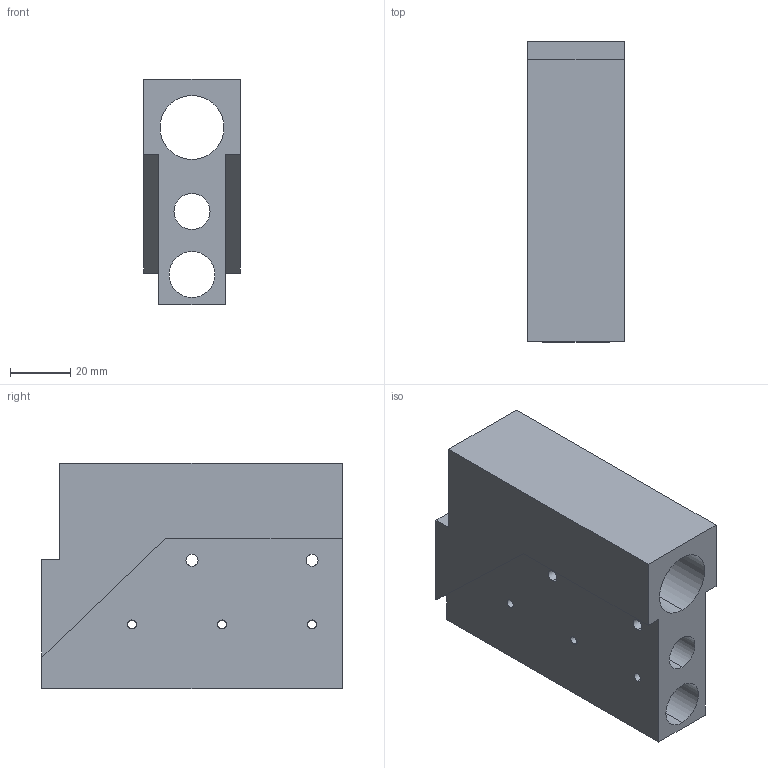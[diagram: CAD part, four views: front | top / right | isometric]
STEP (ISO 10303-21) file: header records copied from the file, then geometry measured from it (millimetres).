
FILE_DESCRIPTION (( 'STEP AP203' ), '1' );
FILE_NAME ('PORTAL OSNOVA.STEP', '2023-07-14T06:21:16', ( '' ), ( '' ), 'SwSTEP 2.0', 'SolidWorks 2014', '' );
FILE_SCHEMA (( 'CONFIG_CONTROL_DESIGN' ));
Length unit declared in the file: millimetre
Products named in the file (1): PORTAL OSNOVA
Bounding box: 32 x 100 x 75 mm (x, y, z)
Volume: 126096.8 mm3; surface area: 42056.2 mm2
Topology: 1 solids, 1 shells, 54 faces, 132 edges, 88 vertices
Faces by surface type: cylinder 32, plane 22
Entity records: 1729 total; most frequent: DIRECTION 306, CARTESIAN_POINT 275, ORIENTED_EDGE 264, EDGE_CURVE 132, AXIS2_PLACEMENT_3D 119, VERTEX_POINT 88, EDGE_LOOP 78, VECTOR 68
